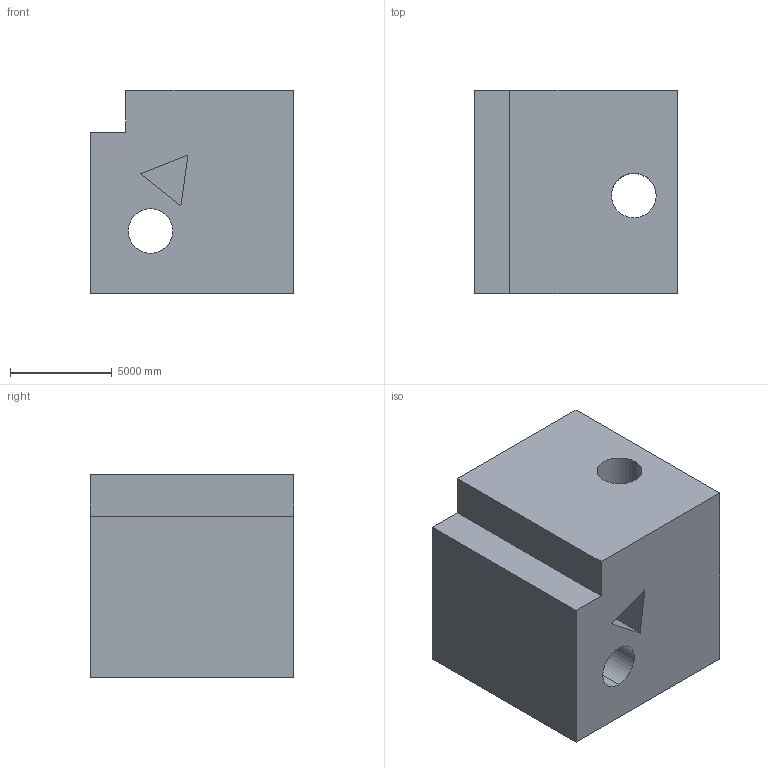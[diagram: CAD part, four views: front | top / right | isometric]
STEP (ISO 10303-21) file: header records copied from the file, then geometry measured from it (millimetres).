
FILE_DESCRIPTION (( 'STEP AP203' ), '1' );
FILE_NAME ('1485.STEP', '2022-08-18T14:45:46', ( 'user' ), ( '' ), 'SwSTEP 2.0', 'SolidWorks 2021', '' );
FILE_SCHEMA (( 'CONFIG_CONTROL_DESIGN' ));
Length unit declared in the file: centimetre
Products named in the file (1): 1485
Bounding box: 10000 x 10000 x 10000 mm (x, y, z)
Volume: 862846598272.6 mm3; surface area: 787952062.4 mm2
Topology: 1 solids, 1 shells, 20 faces, 48 edges, 32 vertices
Faces by surface type: plane 16, cylinder 4
Entity records: 665 total; most frequent: CARTESIAN_POINT 101, DIRECTION 98, ORIENTED_EDGE 96, EDGE_CURVE 48, VECTOR 40, LINE 40, VERTEX_POINT 32, AXIS2_PLACEMENT_3D 29
